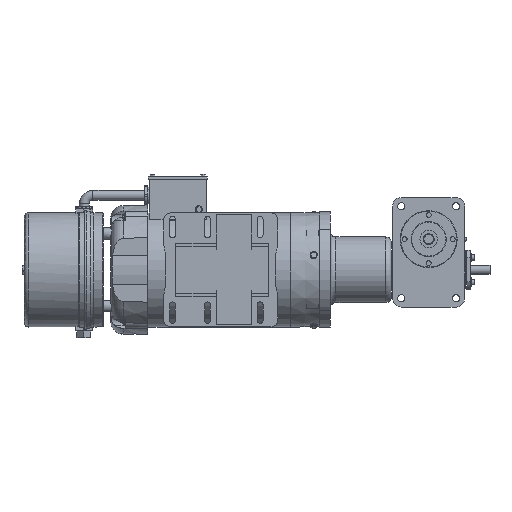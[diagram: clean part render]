
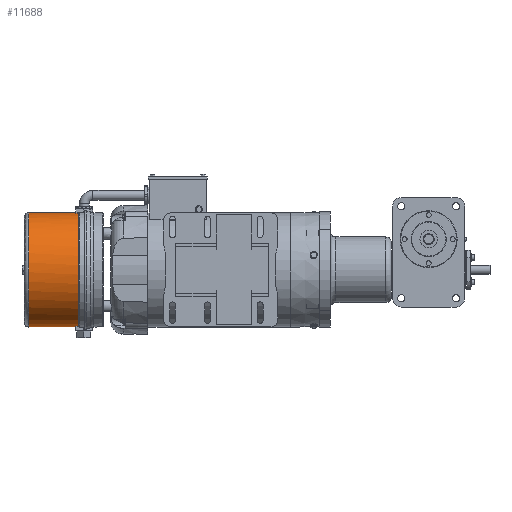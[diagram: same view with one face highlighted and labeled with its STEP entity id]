
A CAD part, front view. The second image highlights one B-rep face of the part: STEP entity #11688.
In plain terms, the highlighted cylindrical face has radius 82.931 mm (diameter 165.862 mm), a full revolution.
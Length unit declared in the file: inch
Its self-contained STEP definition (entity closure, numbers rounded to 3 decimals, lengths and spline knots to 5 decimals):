
#871=LINE('',#18395,#1680);
#872=LINE('',#18399,#1681);
#873=LINE('',#18403,#1682);
#874=LINE('',#18407,#1683);
#875=LINE('',#18408,#1684);
#876=LINE('',#18413,#1685);
#1680=VECTOR('',#14447,39.37008);
#1681=VECTOR('',#14450,39.37008);
#1682=VECTOR('',#14453,39.37008);
#1683=VECTOR('',#14456,39.37008);
#1684=VECTOR('',#14457,39.37008);
#1685=VECTOR('',#14460,39.37008);
#3198=ORIENTED_EDGE('',*,*,#5996,.F.);
#3199=ORIENTED_EDGE('',*,*,#5997,.F.);
#3200=ORIENTED_EDGE('',*,*,#5998,.F.);
#3201=ORIENTED_EDGE('',*,*,#5999,.F.);
#3202=ORIENTED_EDGE('',*,*,#6000,.F.);
#3203=ORIENTED_EDGE('',*,*,#6001,.F.);
#3204=ORIENTED_EDGE('',*,*,#6002,.F.);
#3205=ORIENTED_EDGE('',*,*,#6003,.F.);
#3206=ORIENTED_EDGE('',*,*,#6004,.F.);
#3207=ORIENTED_EDGE('',*,*,#6005,.T.);
#3208=ORIENTED_EDGE('',*,*,#6006,.F.);
#3209=ORIENTED_EDGE('',*,*,#6007,.T.);
#5996=EDGE_CURVE('',#7430,#7431,#8317,.T.);
#5997=EDGE_CURVE('',#7432,#7430,#871,.T.);
#5998=EDGE_CURVE('',#7433,#7432,#8318,.T.);
#5999=EDGE_CURVE('',#7434,#7433,#872,.F.);
#6000=EDGE_CURVE('',#7435,#7434,#8319,.T.);
#6001=EDGE_CURVE('',#7436,#7435,#873,.T.);
#6002=EDGE_CURVE('',#7437,#7436,#8320,.T.);
#6003=EDGE_CURVE('',#7431,#7437,#874,.F.);
#6004=EDGE_CURVE('',#7438,#7439,#875,.T.);
#6005=EDGE_CURVE('',#7438,#7440,#8321,.T.);
#6006=EDGE_CURVE('',#7441,#7440,#876,.F.);
#6007=EDGE_CURVE('',#7441,#7439,#8322,.T.);
#7430=VERTEX_POINT('',#18393);
#7431=VERTEX_POINT('',#18394);
#7432=VERTEX_POINT('',#18396);
#7433=VERTEX_POINT('',#18398);
#7434=VERTEX_POINT('',#18400);
#7435=VERTEX_POINT('',#18402);
#7436=VERTEX_POINT('',#18404);
#7437=VERTEX_POINT('',#18406);
#7438=VERTEX_POINT('',#18409);
#7439=VERTEX_POINT('',#18410);
#7440=VERTEX_POINT('',#18412);
#7441=VERTEX_POINT('',#18414);
#8317=CIRCLE('',#12623,3.265);
#8318=CIRCLE('',#12624,3.265);
#8319=CIRCLE('',#12625,3.265);
#8320=CIRCLE('',#12626,3.265);
#8321=CIRCLE('',#12627,3.265);
#8322=CIRCLE('',#12628,3.265);
#8899=EDGE_LOOP('',(#3198,#3199,#3200,#3201,#3202,#3203,#3204,#3205));
#8900=EDGE_LOOP('',(#3206,#3207,#3208,#3209));
#9771=FACE_BOUND('',#8899,.T.);
#9772=FACE_BOUND('',#8900,.T.);
#10412=CYLINDRICAL_SURFACE('',#12622,3.265);
#11688=ADVANCED_FACE('',(#9771,#9772),#10412,.T.);
#12622=AXIS2_PLACEMENT_3D('',#18391,#14443,#14444);
#12623=AXIS2_PLACEMENT_3D('',#18392,#14445,#14446);
#12624=AXIS2_PLACEMENT_3D('',#18397,#14448,#14449);
#12625=AXIS2_PLACEMENT_3D('',#18401,#14451,#14452);
#12626=AXIS2_PLACEMENT_3D('',#18405,#14454,#14455);
#12627=AXIS2_PLACEMENT_3D('',#18411,#14458,#14459);
#12628=AXIS2_PLACEMENT_3D('',#18415,#14461,#14462);
#14443=DIRECTION('',(1.,0.,0.));
#14444=DIRECTION('',(0.,0.,-1.));
#14445=DIRECTION('',(1.,0.,0.));
#14446=DIRECTION('',(0.,0.,-1.));
#14447=DIRECTION('',(1.,0.,0.));
#14448=DIRECTION('',(1.,0.,0.));
#14449=DIRECTION('',(0.,0.,-1.));
#14450=DIRECTION('',(1.,0.,0.));
#14451=DIRECTION('',(1.,0.,0.));
#14452=DIRECTION('',(0.,0.,-1.));
#14453=DIRECTION('',(1.,0.,0.));
#14454=DIRECTION('',(1.,0.,0.));
#14455=DIRECTION('',(0.,0.,-1.));
#14456=DIRECTION('',(1.,0.,0.));
#14457=DIRECTION('',(1.,0.,0.));
#14458=DIRECTION('',(1.,0.,0.));
#14459=DIRECTION('',(0.,0.,-1.));
#14460=DIRECTION('',(1.,0.,0.));
#14461=DIRECTION('',(1.,0.,0.));
#14462=DIRECTION('',(0.,0.,-1.));
#18391=CARTESIAN_POINT('',(-12.33,0.,0.));
#18392=CARTESIAN_POINT('',(-13.75,0.,0.));
#18393=CARTESIAN_POINT('',(-13.75,0.52,-3.22333));
#18394=CARTESIAN_POINT('',(-13.75,0.52,3.22333));
#18395=CARTESIAN_POINT('',(-12.33,0.52,-3.22333));
#18396=CARTESIAN_POINT('',(-13.9,0.52,-3.22333));
#18397=CARTESIAN_POINT('',(-13.9,0.,0.));
#18398=CARTESIAN_POINT('',(-13.9,-0.52,-3.22333));
#18399=CARTESIAN_POINT('',(-12.33,-0.52,-3.22333));
#18400=CARTESIAN_POINT('',(-13.75,-0.52,-3.22333));
#18401=CARTESIAN_POINT('',(-13.75,0.,0.));
#18402=CARTESIAN_POINT('',(-13.75,-0.52,3.22333));
#18403=CARTESIAN_POINT('',(-12.33,-0.52,3.22333));
#18404=CARTESIAN_POINT('',(-13.9,-0.52,3.22333));
#18405=CARTESIAN_POINT('',(-13.9,0.,0.));
#18406=CARTESIAN_POINT('',(-13.9,0.52,3.22333));
#18407=CARTESIAN_POINT('',(-12.33,0.52,3.22333));
#18408=CARTESIAN_POINT('',(-12.33,3.10615,1.006));
#18409=CARTESIAN_POINT('',(-16.59,3.10615,1.006));
#18410=CARTESIAN_POINT('',(-16.42,3.10615,1.006));
#18411=CARTESIAN_POINT('',(-16.59,0.,0.));
#18412=CARTESIAN_POINT('',(-16.59,3.10615,-1.006));
#18413=CARTESIAN_POINT('',(-12.33,3.10615,-1.006));
#18414=CARTESIAN_POINT('',(-16.42,3.10615,-1.006));
#18415=CARTESIAN_POINT('',(-16.42,0.,0.));
